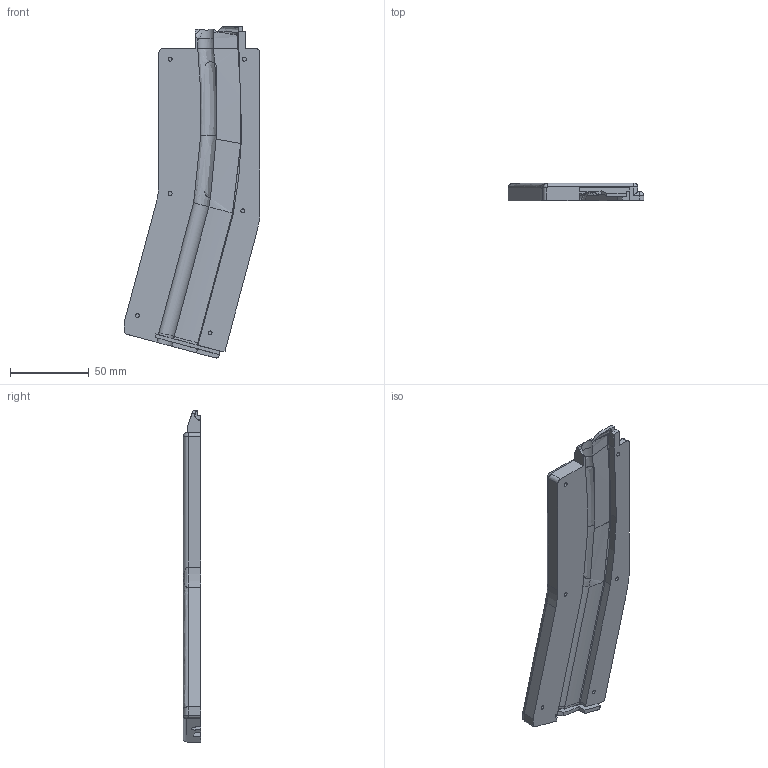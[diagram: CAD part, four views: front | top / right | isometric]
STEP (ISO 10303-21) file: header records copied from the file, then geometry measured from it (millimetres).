
FILE_DESCRIPTION(/* description */ (''),/* implementation_level */ '2;1');
FILE_NAME(/* name */ '//vboxsvr/bigsql-win-testing/CAD/DD2-GIT/freeman1337/cmmg-22lr-mag-25round/STEP/Left Body 25.step',/* time_stamp */ '2021-06-10T14:12:30-07:00',/* author */ (''),/* organization */ (''),/* preprocessor_version */ 'ST-DEVELOPER v18.1',/* originating_system */ 'Autodesk Translation Framework v10.9.0.1377',/* authorisation */ '');
FILE_SCHEMA (('AUTOMOTIVE_DESIGN { 1 0 10303 214 3 1 1 }'));
Length unit declared in the file: millimetre
Products named in the file (1): BodyL
Bounding box: 86 x 11 x 210.15 mm (x, y, z)
Volume: 107003.4 mm3; surface area: 34028.8 mm2
Topology: 1 solids, 1 shells, 180 faces, 461 edges, 282 vertices
Faces by surface type: plane 71, bspline 60, cylinder 45, torus 2, sphere 2
Full cylindrical faces by diameter (mm): 2.5 x6
Entity records: 7952 total; most frequent: CARTESIAN_POINT 3936, ORIENTED_EDGE 908, DIRECTION 705, EDGE_CURVE 454, VERTEX_POINT 282, AXIS2_PLACEMENT_3D 259, LINE 187, VECTOR 187
